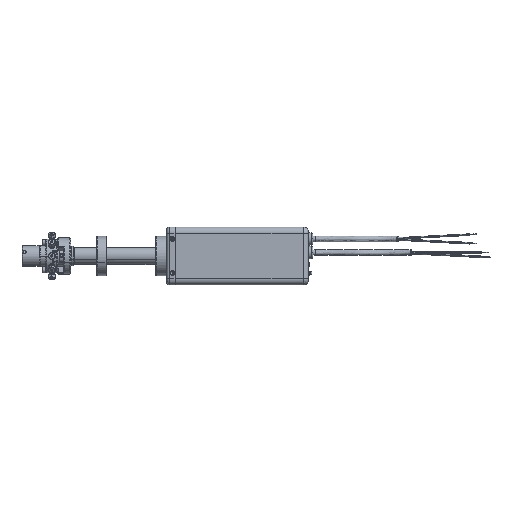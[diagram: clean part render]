
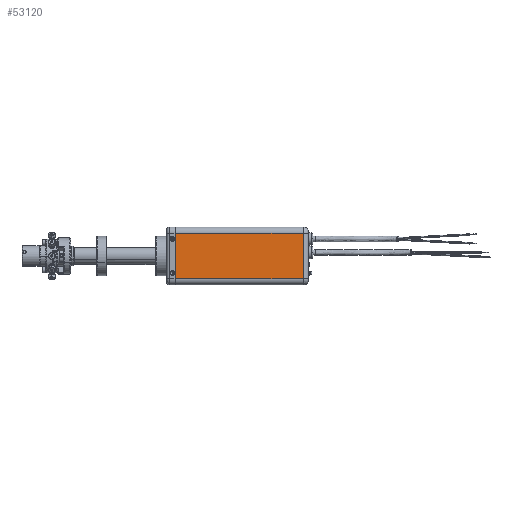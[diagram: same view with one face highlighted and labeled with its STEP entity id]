
A CAD part, front view. The second image highlights one B-rep face of the part: STEP entity #53120.
In plain terms, the highlighted planar face has unit normal (0, -1, 0).
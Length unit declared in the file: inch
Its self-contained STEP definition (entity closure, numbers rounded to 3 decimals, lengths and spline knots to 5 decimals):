
#1214 = CARTESIAN_POINT ( 'NONE',  ( 0.3125, -2.5, 0.84 ) ) ;
#17827 = EDGE_CURVE ( 'NONE', #55707, #173266, #182123, .T. ) ;
#26003 = B_SPLINE_CURVE_WITH_KNOTS ( 'NONE', 3,
 ( #113562, #93580, #215736, #76520 ),
 .UNSPECIFIED., .F., .F.,
 ( 4, 4 ),
 ( 0., 1. ),
 .UNSPECIFIED. ) ;
#35288 = CARTESIAN_POINT ( 'NONE',  ( 1.87417, -2.5, 0.84 ) ) ;
#38443 = CARTESIAN_POINT ( 'NONE',  ( 0.3125, -2.5, -0.28 ) ) ;
#51120 = CARTESIAN_POINT ( 'NONE',  ( 0.3125, -2.5, -0.84 ) ) ;
#52331 = CARTESIAN_POINT ( 'NONE',  ( 3.43583, -2.5, 0.84 ) ) ;
#53120 = ADVANCED_FACE ( 'NONE', ( #65187 ), #176407, .F. ) ;
#55707 = VERTEX_POINT ( 'NONE', #217258 ) ;
#58407 = CARTESIAN_POINT ( 'NONE',  ( 4.9975, -2.5, -0.28 ) ) ;
#62417 = EDGE_CURVE ( 'NONE', #121083, #55707, #26003, .T. ) ;
#65187 = FACE_OUTER_BOUND ( 'NONE', #166885, .T. ) ;
#68133 = CARTESIAN_POINT ( 'NONE',  ( 0.3125, -2.5, 0.84 ) ) ;
#75453 = CARTESIAN_POINT ( 'NONE',  ( 4.9975, -2.5, -0.84 ) ) ;
#76520 = CARTESIAN_POINT ( 'NONE',  ( 0.3125, -2.5, -0.84 ) ) ;
#83563 = CARTESIAN_POINT ( 'NONE',  ( 4.9975, -2.5, -0.84 ) ) ;
#83765 = CARTESIAN_POINT ( 'NONE',  ( 0.3125, -2.5, 0.28 ) ) ;
#89653 = VERTEX_POINT ( 'NONE', #183343 ) ;
#93580 = CARTESIAN_POINT ( 'NONE',  ( 3.43583, -2.5, -0.84 ) ) ;
#98314 = AXIS2_PLACEMENT_3D ( 'NONE', #162303, #112709, #177861 ) ;
#104246 = ORIENTED_EDGE ( 'NONE', *, *, #17827, .F. ) ;
#110079 = ORIENTED_EDGE ( 'NONE', *, *, #205792, .F. ) ;
#110990 = CARTESIAN_POINT ( 'NONE',  ( 4.9975, -2.5, 0.28 ) ) ;
#112709 = DIRECTION ( 'NONE',  ( 0., 1., 0. ) ) ;
#113562 = CARTESIAN_POINT ( 'NONE',  ( 4.9975, -2.5, -0.84 ) ) ;
#119540 = B_SPLINE_CURVE_WITH_KNOTS ( 'NONE', 3,
 ( #1214, #35288, #52331, #215379 ),
 .UNSPECIFIED., .F., .F.,
 ( 4, 4 ),
 ( 0., 1. ),
 .UNSPECIFIED. ) ;
#121083 = VERTEX_POINT ( 'NONE', #83563 ) ;
#139506 = B_SPLINE_CURVE_WITH_KNOTS ( 'NONE', 3,
 ( #180531, #110990, #58407, #75453 ),
 .UNSPECIFIED., .F., .F.,
 ( 4, 4 ),
 ( 0., 1. ),
 .UNSPECIFIED. ) ;
#146350 = ORIENTED_EDGE ( 'NONE', *, *, #62417, .F. ) ;
#153540 = EDGE_CURVE ( 'NONE', #89653, #121083, #139506, .T. ) ;
#153852 = ORIENTED_EDGE ( 'NONE', *, *, #153540, .F. ) ;
#156567 = CARTESIAN_POINT ( 'NONE',  ( 0.3125, -2.5, 0.84 ) ) ;
#162303 = CARTESIAN_POINT ( 'NONE',  ( 0.3125, -2.5, -1.06 ) ) ;
#166885 = EDGE_LOOP ( 'NONE', ( #153852, #110079, #104246, #146350 ) ) ;
#173266 = VERTEX_POINT ( 'NONE', #156567 ) ;
#176407 = PLANE ( 'NONE',  #98314 ) ;
#177861 = DIRECTION ( 'NONE',  ( 1., 0., 0. ) ) ;
#180531 = CARTESIAN_POINT ( 'NONE',  ( 4.9975, -2.5, 0.84 ) ) ;
#182123 = B_SPLINE_CURVE_WITH_KNOTS ( 'NONE', 3,
 ( #51120, #38443, #83765, #68133 ),
 .UNSPECIFIED., .F., .F.,
 ( 4, 4 ),
 ( 0., 1. ),
 .UNSPECIFIED. ) ;
#183343 = CARTESIAN_POINT ( 'NONE',  ( 4.9975, -2.5, 0.84 ) ) ;
#205792 = EDGE_CURVE ( 'NONE', #173266, #89653, #119540, .T. ) ;
#215379 = CARTESIAN_POINT ( 'NONE',  ( 4.9975, -2.5, 0.84 ) ) ;
#215736 = CARTESIAN_POINT ( 'NONE',  ( 1.87417, -2.5, -0.84 ) ) ;
#217258 = CARTESIAN_POINT ( 'NONE',  ( 0.3125, -2.5, -0.84 ) ) ;
